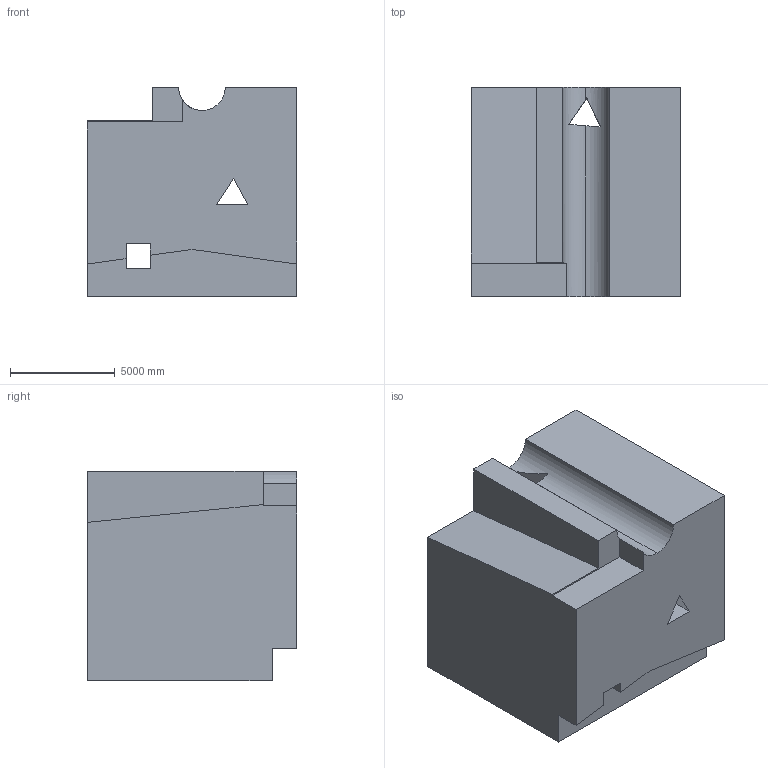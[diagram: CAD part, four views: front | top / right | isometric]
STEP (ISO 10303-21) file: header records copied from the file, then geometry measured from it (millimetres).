
FILE_DESCRIPTION (( 'STEP AP203' ), '1' );
FILE_NAME ('1700.STEP', '2022-08-19T11:50:54', ( 'user' ), ( '' ), 'SwSTEP 2.0', 'SolidWorks 2021', '' );
FILE_SCHEMA (( 'CONFIG_CONTROL_DESIGN' ));
Length unit declared in the file: centimetre
Products named in the file (1): 1700
Bounding box: 10000 x 10000 x 10000 mm (x, y, z)
Volume: 853355707658.3 mm3; surface area: 723462680.7 mm2
Topology: 1 solids, 1 shells, 33 faces, 102 edges, 68 vertices
Faces by surface type: plane 31, cylinder 2
Entity records: 1214 total; most frequent: CARTESIAN_POINT 219, ORIENTED_EDGE 204, DIRECTION 170, EDGE_CURVE 102, VECTOR 92, LINE 92, VERTEX_POINT 68, AXIS2_PLACEMENT_3D 39
